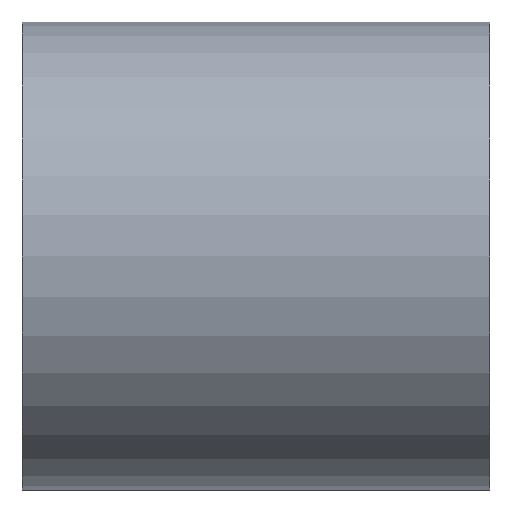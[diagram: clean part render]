
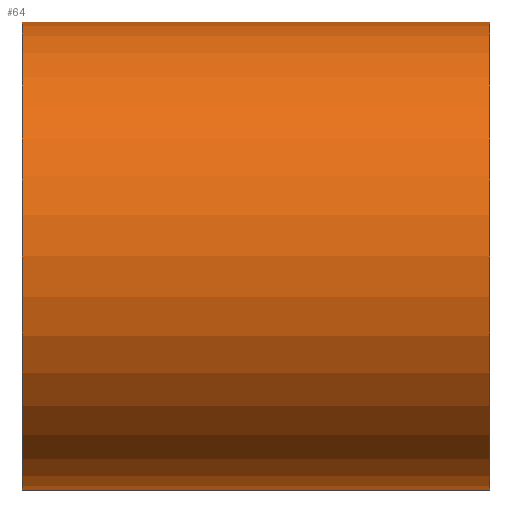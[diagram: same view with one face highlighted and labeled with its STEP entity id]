
A CAD part, front view. The second image highlights one B-rep face of the part: STEP entity #64.
In plain terms, the highlighted cylindrical face has radius 38.05 mm (diameter 76.1 mm), a full revolution.
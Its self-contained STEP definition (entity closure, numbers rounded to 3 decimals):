
#21=FACE_OUTER_BOUND('',#27,.T.);
#27=EDGE_LOOP('',(#54,#55,#56,#57));
#31=LINE('',#134,#33);
#33=VECTOR('',#116,38.05);
#36=CIRCLE('',#94,38.05);
#37=CIRCLE('',#96,38.05);
#40=VERTEX_POINT('',#129);
#41=VERTEX_POINT('',#132);
#45=EDGE_CURVE('',#40,#40,#36,.T.);
#46=EDGE_CURVE('',#41,#41,#37,.T.);
#47=EDGE_CURVE('',#41,#40,#31,.T.);
#54=ORIENTED_EDGE('',*,*,#46,.F.);
#55=ORIENTED_EDGE('',*,*,#47,.T.);
#56=ORIENTED_EDGE('',*,*,#45,.T.);
#57=ORIENTED_EDGE('',*,*,#47,.F.);
#61=CYLINDRICAL_SURFACE('',#95,38.05);
#64=ADVANCED_FACE('',(#21),#61,.T.);
#94=AXIS2_PLACEMENT_3D('',#130,#110,#111);
#95=AXIS2_PLACEMENT_3D('',#131,#112,#113);
#96=AXIS2_PLACEMENT_3D('',#133,#114,#115);
#110=DIRECTION('center_axis',(-1.,0.,0.));
#111=DIRECTION('ref_axis',(0.,0.,1.));
#112=DIRECTION('center_axis',(-1.,0.,0.));
#113=DIRECTION('ref_axis',(0.,1.,0.));
#114=DIRECTION('center_axis',(-1.,0.,0.));
#115=DIRECTION('ref_axis',(0.,0.,1.));
#116=DIRECTION('',(1.,0.,0.));
#129=CARTESIAN_POINT('',(76.,-38.05,0.));
#130=CARTESIAN_POINT('Origin',(76.,0.,0.));
#131=CARTESIAN_POINT('Origin',(38.,0.,0.));
#132=CARTESIAN_POINT('',(0.,-38.05,0.));
#133=CARTESIAN_POINT('Origin',(0.,0.,
0.));
#134=CARTESIAN_POINT('',(38.,-38.05,0.));
